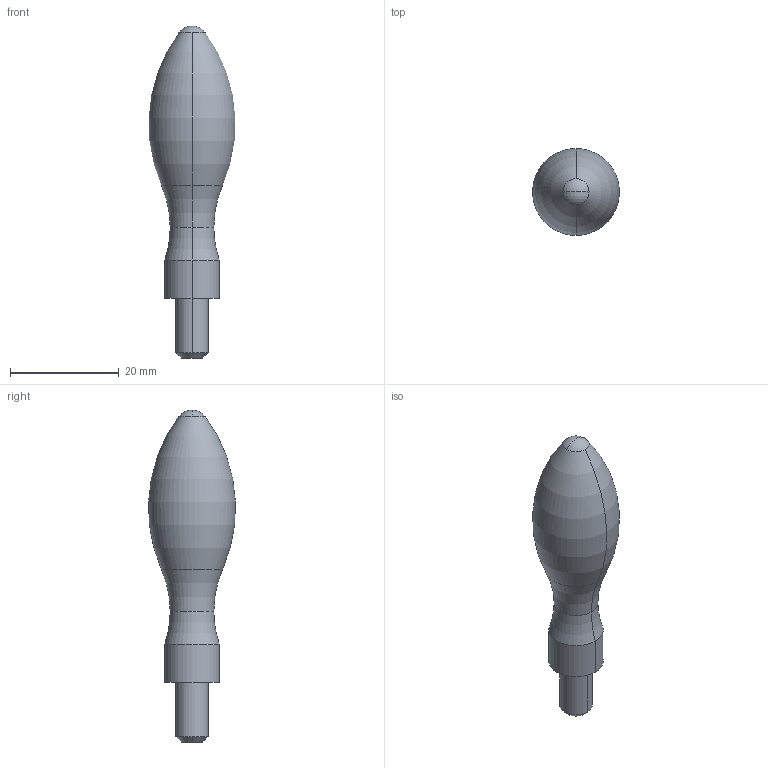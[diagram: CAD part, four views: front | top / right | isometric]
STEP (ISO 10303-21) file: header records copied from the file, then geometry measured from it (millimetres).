
FILE_DESCRIPTION (( 'STEP AP203' ), '1' );
FILE_NAME ('alg16.STEP', '2021-10-21T07:32:47', ( '' ), ( '' ), 'SwSTEP 2.0', 'SolidWorks 2020', '' );
FILE_SCHEMA (( 'CONFIG_CONTROL_DESIGN' ));
Length unit declared in the file: millimetre
Products named in the file (1): alg16
Bounding box: 15.93 x 15.96 x 61 mm (x, y, z)
Volume: 5749.2 mm3; surface area: 2158 mm2
Topology: 1 solids, 1 shells, 23 faces, 52 edges, 33 vertices
Faces by surface type: plane 9, torus 6, cylinder 4, cone 2, sphere 2
Entity records: 731 total; most frequent: DIRECTION 128, CARTESIAN_POINT 109, ORIENTED_EDGE 104, AXIS2_PLACEMENT_3D 52, EDGE_CURVE 52, VERTEX_POINT 33, CIRCLE 28, EDGE_LOOP 25
